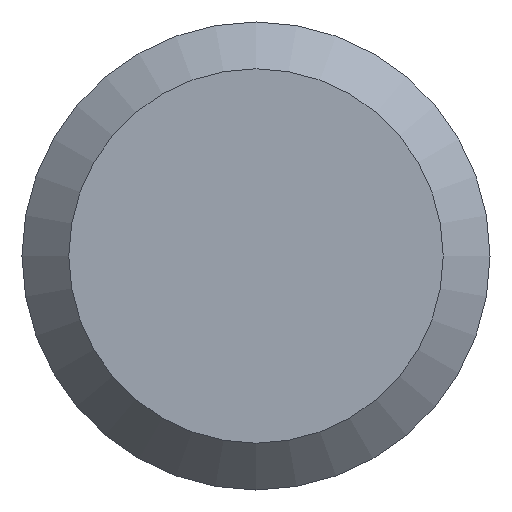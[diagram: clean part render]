
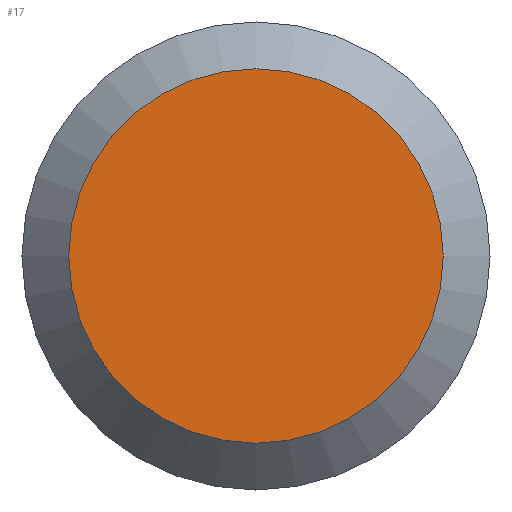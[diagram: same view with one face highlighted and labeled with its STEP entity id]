
A CAD part, left-side view. The second image highlights one B-rep face of the part: STEP entity #17.
In plain terms, the highlighted planar face has unit normal (-1, 0, 0).
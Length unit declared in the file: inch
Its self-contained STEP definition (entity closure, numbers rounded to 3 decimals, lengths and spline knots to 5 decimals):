
#1 = PLANE ( 'NONE',  #15 ) ;
#15 = AXIS2_PLACEMENT_3D ( 'NONE', #57, #160, #223 ) ;
#17 = ADVANCED_FACE ( 'NONE', ( #53 ), #1, .F. ) ;
#19 = EDGE_CURVE ( 'NONE', #116, #116, #60, .T. ) ;
#30 = EDGE_LOOP ( 'NONE', ( #76 ) ) ;
#53 = FACE_OUTER_BOUND ( 'NONE', #30, .T. ) ;
#57 = CARTESIAN_POINT ( 'NONE',  ( 0., 0.049, 0. ) ) ;
#60 = CIRCLE ( 'NONE', #200, 0.0392 ) ;
#76 = ORIENTED_EDGE ( 'NONE', *, *, #19, .T. ) ;
#116 = VERTEX_POINT ( 'NONE', #242 ) ;
#139 = CARTESIAN_POINT ( 'NONE',  ( 0., 0., 0. ) ) ;
#160 = DIRECTION ( 'NONE',  ( 1., 0., 0. ) ) ;
#170 = DIRECTION ( 'NONE',  ( -1., 0., 0. ) ) ;
#200 = AXIS2_PLACEMENT_3D ( 'NONE', #139, #170, #218 ) ;
#218 = DIRECTION ( 'NONE',  ( 0., 0., -1. ) ) ;
#223 = DIRECTION ( 'NONE',  ( 0., 0., -1. ) ) ;
#242 = CARTESIAN_POINT ( 'NONE',  ( 0., 0., -0.0392 ) ) ;
